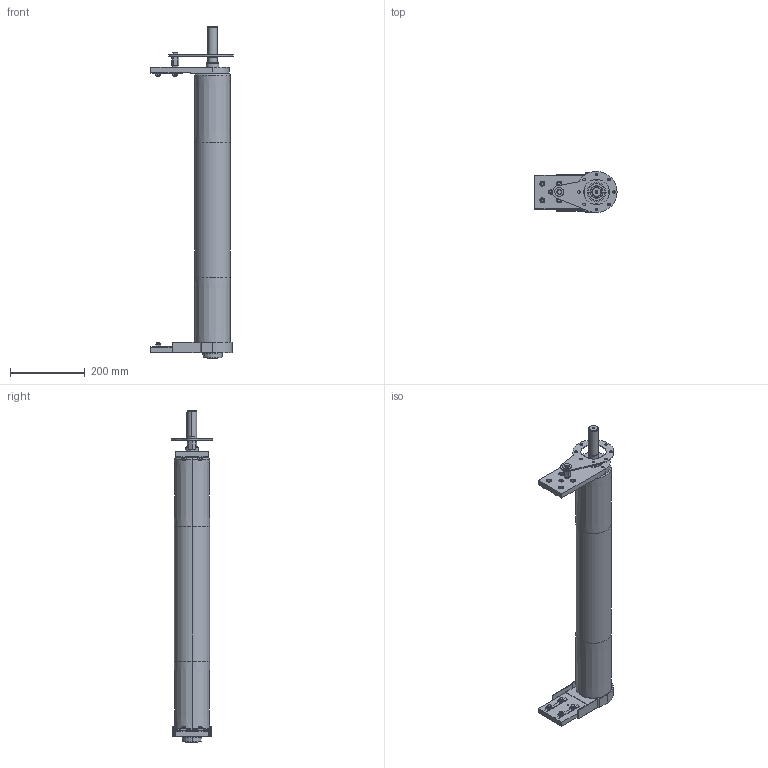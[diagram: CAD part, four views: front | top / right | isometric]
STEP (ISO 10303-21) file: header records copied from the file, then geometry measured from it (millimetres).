
FILE_DESCRIPTION (( 'STEP AP203' ), '1' );
FILE_NAME ('084.095.KDC.49.700.STEP', '2020-12-09T09:27:05', ( 'Localadmin' ), ( 'Microsoft' ), 'SwSTEP 2.0', 'SolidWorks 2018', '' );
FILE_SCHEMA (( 'CONFIG_CONTROL_DESIGN' ));
Length unit declared in the file: millimetre
Products named in the file (21): RONDELLE FASCIA LARGA UNI 6593_8.4x24 UNI 6593; 084.808.006_084.808.002; GRANI A PUNTA PIATTA UNI 5923_M8x20 UNI 5923; 084.810.003; TPU12-5; 084.802.019_084.802.019; 084.802.034_084.802.034; 084.802.027; 084.095.KDC.49.700; CHIAVETTE_A 8x7x70 UNI 6604-69; 084.301.000 VITI ALUSIC_084.301.003; 084.808.004; circlip for shafts normal_din_PreviewCfg; 084.302.000 DADI ALUSIC 13x13_084.302.004; 084.812.002; 084.803.005-1; 084.816.114_084.816.110<A macchina>; DADI ESAGONALI RIBASSATI UNI 5589_M8 UNI 5589; 084.812.003; VITI TE UNI 5739_M8x25 UNI 5739; 084.808.007_084.808.007
Assembly tree (36 placements, depth 2):
  084.095.KDC.49.700
    084.802.027
    084.808.004
    084.812.002
    084.802.034_084.802.034
    084.301.000 VITI ALUSIC_084.301.003  x8
    084.302.000 DADI ALUSIC 13x13_084.302.004  x8
    084.816.114_084.816.110<A macchina>
    084.812.003
    084.808.007_084.808.007
    084.808.006_084.808.002
    084.810.003  x2
    084.802.019_084.802.019
    CHIAVETTE_A 8x7x70 UNI 6604-69
    circlip for shafts normal_din_PreviewCfg  x2
    084.803.005-1
    DADI ESAGONALI RIBASSATI UNI 5589_M8 UNI 5589
    VITI TE UNI 5739_M8x25 UNI 5739
    RONDELLE FASCIA LARGA UNI 6593_8.4x24 UNI 6593
    GRANI A PUNTA PIATTA UNI 5923_M8x20 UNI 5923
    TPU12-5
Bounding box: 220 x 110 x 888.5 mm (x, y, z)
Volume: 2102838.6 mm3; surface area: 988036.3 mm2
Topology: 41 solids, 42 shells, 1152 faces, 2945 edges, 1915 vertices
Faces by surface type: plane 591, cylinder 324, cone 100, torus 80, bspline 48, sphere 9
Entity records: 30301 total; most frequent: CARTESIAN_POINT 5937, DIRECTION 4536, ORIENTED_EDGE 4494, EDGE_CURVE 2247, AXIS2_PLACEMENT_3D 1613, VERTEX_POINT 1464, LINE 1310, VECTOR 1310
